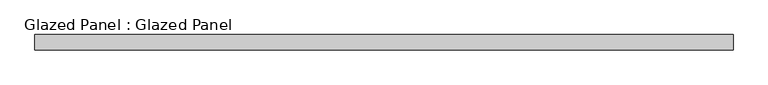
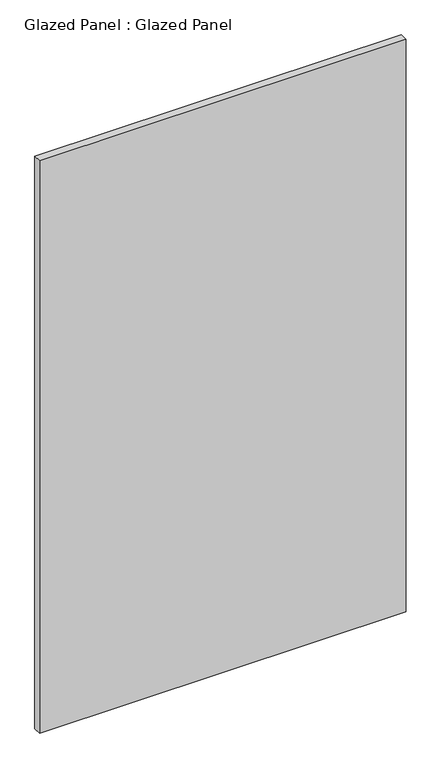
"""IFC4 building model written with IfcOpenShell, lengths in millimetres: plate geometry, Glazed Panel : Glazed Panel."""

from ifc_helpers import new_model, si_unit, origin, origin_with_axes, place, context, project, spatial, polyline, outline, extrude, source, transform, mapped, element, save


def glazed_panel_glazed_panel_e09dce83(model_context):
    return source(origin(), model_context, "Body", "SweptSolid", [
        extrude(outline(polyline([(584.9807766, 38.1), (-584.9807766, 38.1), (-584.9807766, 63.5), (584.9807766, 63.5), (584.9807766, 38.1)])), origin_with_axes(), (0.0, 0.0, 1.0), 1929.2099287),
    ])


if __name__ == "__main__":
    model = new_model("IFC4")
    model_context = context("Model", 3, world=origin())
    ifc_project = project(units=[si_unit("LENGTHUNIT", "METRE", prefix="MILLI")], contexts=[model_context])
    site = spatial("IfcSite", under=ifc_project)
    building = spatial("IfcBuilding", under=site)
    placement = place(None, origin())
    glazed_panel_glazed_panel_shape = glazed_panel_glazed_panel_e09dce83(model_context)
    element("IfcPlate", 1, ObjectType="Glazed Panel : Glazed Panel", at=placement, inside=building, context=model_context, shape_type="MappedRepresentation", body=[
        mapped(glazed_panel_glazed_panel_shape, transform((0.0, 0.0, 0.0), x_axis=(1.0, 0.0, 0.0), y_axis=(0.0, 1.0, 0.0), z_axis=(0.0, 0.0, 1.0))),
    ])
    save(model, "model.ifc")
